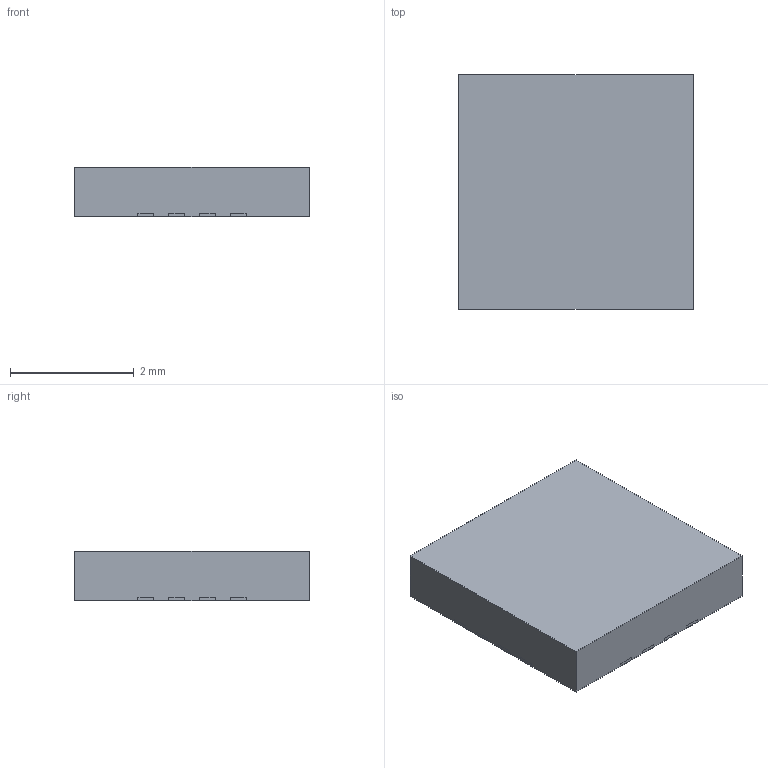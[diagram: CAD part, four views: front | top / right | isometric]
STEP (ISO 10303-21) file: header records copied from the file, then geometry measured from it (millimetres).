
FILE_DESCRIPTION(('shape.step'),'2;1');
FILE_NAME('shape.step','2026-11-04',('tscircuit'),('tscircuit'),'generator','','');
FILE_SCHEMA(('AUTOMOTIVE_DESIGN { 1 0 10303 214 1 1 1 1 }'));
Length unit declared in the file: millimetre
Products named in the file (1): shape
Bounding box: 3.8 x 3.8 x 0.8 mm (x, y, z)
Volume: 11.8 mm3; surface area: 52.4 mm2
Topology: 18 solids, 18 shells, 108 faces, 216 edges, 144 vertices
Faces by surface type: plane 108
Entity records: 2499 total; most frequent: DIRECTION 434, ORIENTED_EDGE 432, CARTESIAN_POINT 253, VECTOR 216, LINE 216, EDGE_CURVE 216, VERTEX_POINT 144, AXIS2_PLACEMENT_3D 109
